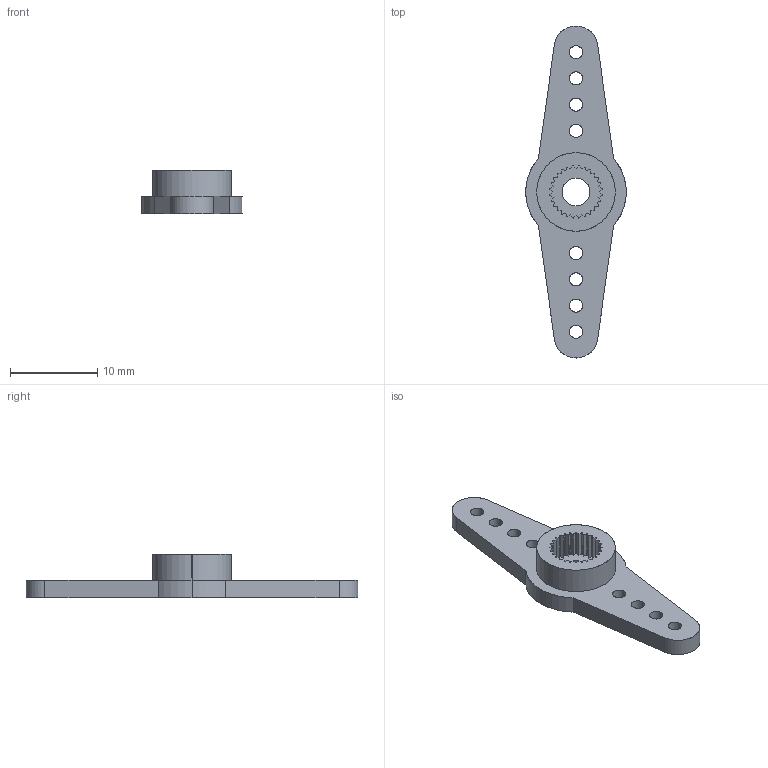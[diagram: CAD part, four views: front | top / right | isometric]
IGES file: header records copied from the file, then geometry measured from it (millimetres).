
Start section: SolidWorks IGES file using analytic representation for surfaces
Global section: file name: C:\Users\seb95\Downloads\MG995_gear2\MG995_Gear2.IGS; native system: SolidWorks 2019; preprocessor: SolidWorks 2019; author: seb95; date: 220411.182352; units: millimetre
Bounding box: 11.5 x 38 x 5 mm (x, y, z)
Surface area: 986.5 mm2 (no closed solid volume)
Topology: 0 solids, 0 shells, 126 faces, 1324 edges, 1324 vertices
Faces by surface type: bspline 67, revolution 59
